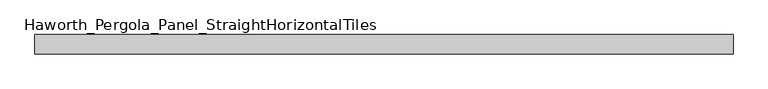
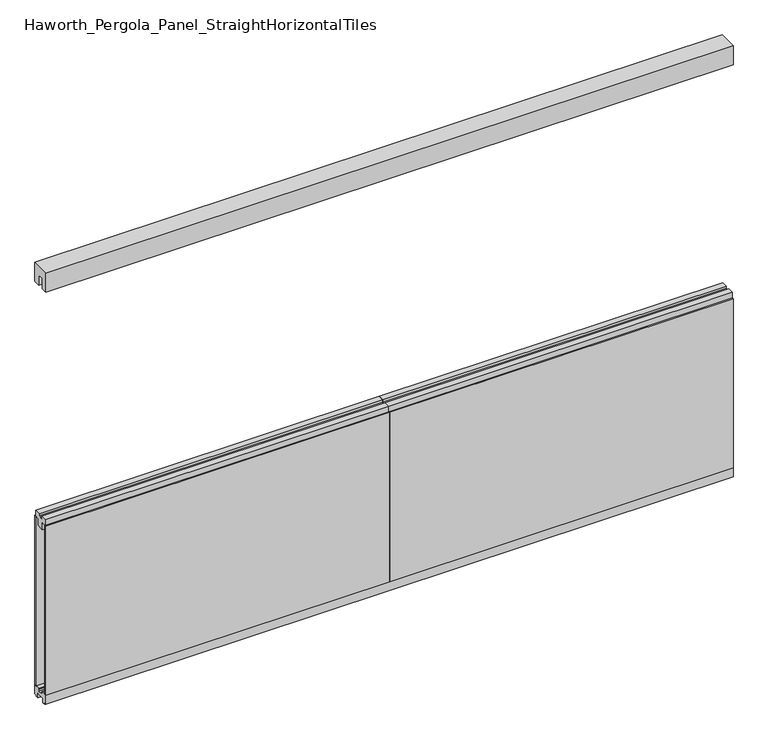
"""IFC4 building model written with IfcOpenShell, lengths in millimetres: furniture geometry, Haworth_Pergola_Panel_StraightHorizontalTiles : Horizontal Tiles (40h 36h 16h)- 96h 144w."""

from ifc_helpers import new_model, si_unit, frame, origin, place, context, project, spatial, polyline, outline, extrude, source, transform, mapped, element, save


def haworth_pergola_panel_straighthorizontaltiles_da99c4b1(model_context):
    return source(origin(), model_context, "Body", "SweptSolid", [
        extrude(outline(polyline([(12.7, 1047.75), (44.45, 1047.75), (44.45, 1016.0), (19.05, 1016.0), (19.05, 977.9), (-19.05, 977.9), (-19.05, 1016.0), (-44.45, 1016.0), (-44.45, 1047.75), (-12.7, 1047.75), (-12.7, 1035.05), (12.7, 1035.05), (12.7, 1047.75)])), frame((38.1, 0.0, 0.0), z_axis=(1.0, 0.0, 0.0), x_axis=(0.0, 1.0, 0.0)), (0.0, 0.0, 1.0), 1828.8),
        extrude(outline(polyline([(38.1, 50.8), (1866.9, 50.8), (1866.9, 38.1), (38.1, 38.1), (38.1, 50.8)])), frame((0.0, 0.0, 63.5), z_axis=(0.0, 0.0, 1.0), x_axis=(1.0, 0.0, 0.0)), (0.0, 0.0, 1.0), 952.5),
        extrude(outline(polyline([(38.1, -38.1), (1866.9, -38.1), (1866.9, -50.8), (38.1, -50.8), (38.1, -38.1)])), frame((0.0, 0.0, 63.5), z_axis=(0.0, 0.0, 1.0), x_axis=(1.0, 0.0, 0.0)), (0.0, 0.0, 1.0), 952.5),
        extrude(outline(polyline([(12.7, 1047.75), (44.45, 1047.75), (44.45, 1016.0), (19.05, 1016.0), (19.05, 977.9), (-19.05, 977.9), (-19.05, 1016.0), (-44.45, 1016.0), (-44.45, 1047.75), (-12.7, 1047.75), (-12.7, 1035.05), (12.7, 1035.05), (12.7, 1047.75)])), frame((-1790.7, 0.0, 0.0), z_axis=(1.0, 0.0, 0.0), x_axis=(0.0, 1.0, 0.0)), (0.0, 0.0, 1.0), 1828.8),
        extrude(outline(polyline([(-1790.7, 50.8), (38.1, 50.8), (38.1, 38.1), (-1790.7, 38.1), (-1790.7, 50.8)])), frame((0.0, 0.0, 63.5), z_axis=(0.0, 0.0, 1.0), x_axis=(1.0, 0.0, 0.0)), (0.0, 0.0, 1.0), 952.5),
        extrude(outline(polyline([(-1790.7, -38.1), (38.1, -38.1), (38.1, -50.8), (-1790.7, -50.8), (-1790.7, -38.1)])), frame((0.0, 0.0, 63.5), z_axis=(0.0, 0.0, 1.0), x_axis=(1.0, 0.0, 0.0)), (0.0, 0.0, 1.0), 952.5),
        extrude(outline(polyline([(-50.8, 2438.4), (50.8, 2438.4), (50.8, 2331.8390625), (15.2182948, 2331.8390625), (15.2182948, 2388.7001663), (-15.2182948, 2388.7001663), (-15.2182948, 2331.8390625), (-50.8, 2331.8390625), (-50.8, 2438.4)])), frame((-1790.7, 0.0, 0.0), z_axis=(1.0, 0.0, 0.0), x_axis=(0.0, 1.0, 0.0)), (0.0, 0.0, 1.0), 3657.6),
        extrude(outline(polyline([(-16.2000002, 63.5), (-16.5085717, 61.7499999), (-13.3999996, 61.7499999), (-13.3999996, 58.8973461), (-15.4000002, 59.2499999), (-15.4000002, 48.3500004), (15.4000003, 48.3500004), (15.4000003, 59.2499999), (13.3999997, 58.8973461), (13.3999997, 61.7499999), (16.5085718, 61.7499999), (16.2000003, 63.5), (50.0000004, 63.5), (50.0000004, 12.6999985), (40.9499987, 12.6999985), (38.9499981, 10.6999979), (28.9499999, 10.6999979), (28.9499999, 7.6999994), (38.9499981, 7.6999994), (38.9499981, 5.6999988), (23.7499993, 5.6999988), (23.7499993, 31.4500009), (-23.7499992, 31.4500009), (-23.7499992, 5.6999988), (-38.949998, 5.6999988), (-38.949998, 7.6999994), (-28.9499998, 7.6999994), (-28.9499998, 10.6999979), (-38.949998, 10.6999979), (-40.9499986, 12.6999985), (-50.0000003, 12.6999985), (-50.0000003, 63.5), (-16.2000002, 63.5)])), frame((-1790.7, 0.0, 0.0), z_axis=(1.0, 0.0, 0.0), x_axis=(0.0, 1.0, 0.0)), (0.0, 0.0, 1.0), 3657.6),
    ])


if __name__ == "__main__":
    model = new_model("IFC4")
    model_context = context("Model", 3, world=origin())
    ifc_project = project(units=[si_unit("LENGTHUNIT", "METRE", prefix="MILLI")], contexts=[model_context])
    site = spatial("IfcSite", under=ifc_project)
    building = spatial("IfcBuilding", under=site)
    placement = place(None, origin())
    haworth_pergola_panel_straighthorizontaltiles_shape = haworth_pergola_panel_straighthorizontaltiles_da99c4b1(model_context)
    element("IfcFurniture", 1, ObjectType="Haworth_Pergola_Panel_StraightHorizontalTiles : Horizontal Tiles (40h 36h 16h)- 96h 144w", at=placement, inside=building, context=model_context, shape_type="MappedRepresentation", body=[
        mapped(haworth_pergola_panel_straighthorizontaltiles_shape, transform((0.0, 0.0, 0.0), x_axis=(1.0, 0.0, 0.0), y_axis=(0.0, 1.0, 0.0), z_axis=(0.0, 0.0, 1.0))),
    ])
    save(model, "model.ifc")
